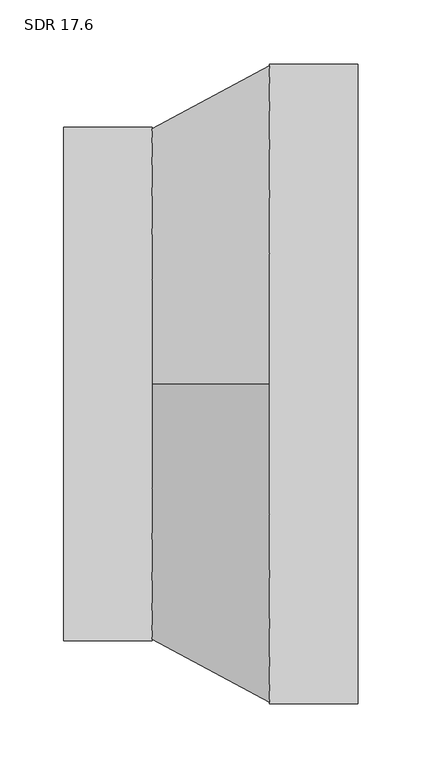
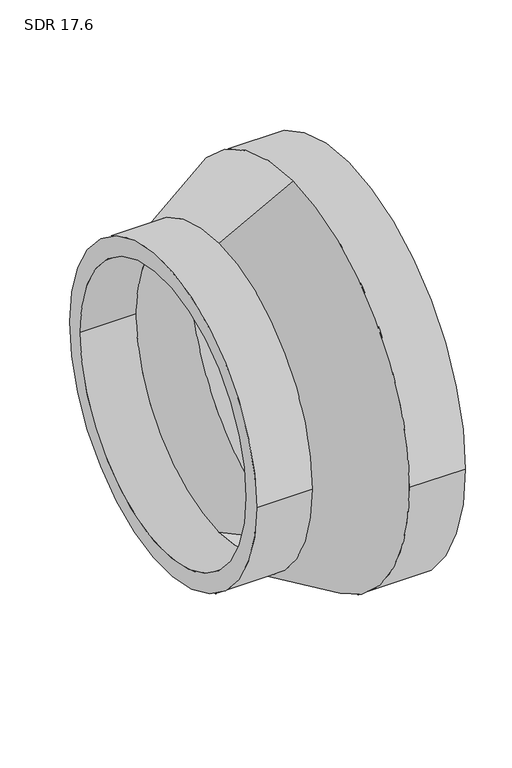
"""IFC4 building model written with IfcOpenShell, lengths in millimetres: pipe fitting geometry, Aquatherm - Reducing Coupling Combined - METRIC : SDR 17.6."""

from ifc_helpers import new_model, si_unit, frame, origin, place, context, project, spatial, polyline, circle_curve, source, transform, mapped, element, save
from ifc_brep_helpers import plane_surface, cylinder_surface, revolved_surface, advanced_brep


def sdr_17_6_247944d3(model_context):
    return source(origin(), model_context, "Body", "AdvancedBrep", [
        advanced_brep(
        [(-115.062, -200.66, 0.0), (-115.062, 200.66, 0.0), (-115.062, -177.8577273, 0.0), (-115.062, 177.8577273, 0.0), (-46.0248, 177.8577273, 0.0), (-46.0248, 0.0, 177.8577273), (-46.0248, -177.8577273, 0.0), (-46.0248, 0.0, -177.8577273), (-46.0248, 200.66, 0.0), (-46.0248, 0.0, -200.66), (-46.0248, -200.66, 0.0), (-46.0248, 0.0, 200.66), (115.062, -250.19, 0.0), (115.062, 250.19, 0.0), (115.062, -221.7593182, 0.0), (115.062, 221.7593182, 0.0), (46.0248, -250.19, 0.0), (46.0248, 0.0, -250.19), (46.0248, 250.19, 0.0), (46.0248, 0.0, 250.19), (46.0248, -221.7593182, 0.0), (46.0248, 0.0, 221.7593182), (46.0248, 221.7593182, 0.0), (46.0248, 0.0, -221.7593182)],
        [
            (0, 1, circle_curve(frame((-115.062, 0.0, 0.0), z_axis=(-1.0, 0.0, 0.0), x_axis=(0.0, 1.0, 0.0)), 200.66)),
            (1, 0, circle_curve(frame((-115.062, 0.0, 0.0), z_axis=(-1.0, 0.0, 0.0), x_axis=(0.0, 1.0, 0.0)), 200.66)),
            (2, 3, circle_curve(frame((-115.062, 0.0, 0.0), z_axis=(1.0, 0.0, 0.0), x_axis=(0.0, 1.0, 0.0)), 177.8577273)),
            (3, 2, circle_curve(frame((-115.062, 0.0, 0.0), z_axis=(1.0, 0.0, 0.0), x_axis=(0.0, 1.0, 0.0)), 177.8577273)),
            (3, 4),
            (4, 5, circle_curve(frame((-46.0248, 0.0, 0.0), z_axis=(1.0, 0.0, 0.0), x_axis=(0.0, 1.0, 0.0)), 177.8577273)),
            (5, 6, circle_curve(frame((-46.0248, 0.0, 0.0), z_axis=(1.0, 0.0, 0.0), x_axis=(0.0, 1.0, 0.0)), 177.8577273)),
            (6, 2),
            (6, 7, circle_curve(frame((-46.0248, 0.0, 0.0), z_axis=(1.0, 0.0, 0.0), x_axis=(0.0, 1.0, 0.0)), 177.8577273)),
            (7, 4, circle_curve(frame((-46.0248, 0.0, 0.0), z_axis=(1.0, 0.0, 0.0), x_axis=(0.0, 1.0, 0.0)), 177.8577273)),
            (1, 8),
            (8, 9, circle_curve(frame((-46.0248, 0.0, 0.0), z_axis=(-1.0, 0.0, 0.0), x_axis=(0.0, 1.0, 0.0)), 200.66)),
            (9, 10, circle_curve(frame((-46.0248, 0.0, 0.0), z_axis=(-1.0, 0.0, 0.0), x_axis=(0.0, 1.0, 0.0)), 200.66)),
            (10, 0),
            (10, 11, circle_curve(frame((-46.0248, 0.0, 0.0), z_axis=(-1.0, 0.0, 0.0), x_axis=(0.0, 1.0, 0.0)), 200.66)),
            (11, 8, circle_curve(frame((-46.0248, 0.0, 0.0), z_axis=(-1.0, 0.0, 0.0), x_axis=(0.0, 1.0, 0.0)), 200.66)),
            (12, 13, circle_curve(frame((115.062, 0.0, 0.0), z_axis=(1.0, 0.0, 0.0), x_axis=(0.0, 1.0, 0.0)), 250.19)),
            (13, 12, circle_curve(frame((115.062, 0.0, 0.0), z_axis=(1.0, 0.0, 0.0), x_axis=(0.0, 1.0, 0.0)), 250.19)),
            (14, 15, circle_curve(frame((115.062, 0.0, 0.0), z_axis=(-1.0, 0.0, 0.0), x_axis=(0.0, 1.0, 0.0)), 221.7593182)),
            (15, 14, circle_curve(frame((115.062, 0.0, 0.0), z_axis=(-1.0, 0.0, 0.0), x_axis=(0.0, 1.0, 0.0)), 221.7593182)),
            (12, 16),
            (16, 17, circle_curve(frame((46.0248, 0.0, 0.0), z_axis=(1.0, 0.0, 0.0), x_axis=(0.0, 1.0, 0.0)), 250.19)),
            (17, 18, circle_curve(frame((46.0248, 0.0, 0.0), z_axis=(1.0, 0.0, 0.0), x_axis=(0.0, 1.0, 0.0)), 250.19)),
            (18, 13),
            (18, 19, circle_curve(frame((46.0248, 0.0, 0.0), z_axis=(1.0, 0.0, 0.0), x_axis=(0.0, 1.0, 0.0)), 250.19)),
            (19, 16, circle_curve(frame((46.0248, 0.0, 0.0), z_axis=(1.0, 0.0, 0.0), x_axis=(0.0, 1.0, 0.0)), 250.19)),
            (14, 20),
            (20, 21, circle_curve(frame((46.0248, 0.0, 0.0), z_axis=(-1.0, 0.0, 0.0), x_axis=(0.0, 1.0, 0.0)), 221.7593182)),
            (21, 22, circle_curve(frame((46.0248, 0.0, 0.0), z_axis=(-1.0, 0.0, 0.0), x_axis=(0.0, 1.0, 0.0)), 221.7593182)),
            (22, 15),
            (22, 23, circle_curve(frame((46.0248, 0.0, 0.0), z_axis=(-1.0, 0.0, 0.0), x_axis=(0.0, 1.0, 0.0)), 221.7593182)),
            (23, 20, circle_curve(frame((46.0248, 0.0, 0.0), z_axis=(-1.0, 0.0, 0.0), x_axis=(0.0, 1.0, 0.0)), 221.7593182)),
            (11, 19),
            (17, 9),
            (21, 5),
            (7, 23),
        ],
        [
            plane_surface(frame((-115.062, 177.8577273, 0.0), z_axis=(-1.0, 0.0, 0.0), x_axis=(0.0, 0.0, 1.0))),
            revolved_surface(polyline([(-115.062, 177.8577273, 0.0), (-46.0248, 177.8577273, 0.0)]), (-115.062, 0.0, 0.0), (-1.0, 0.0, 0.0)),
            cylinder_surface(frame((0.0, 0.0, 0.0), z_axis=(1.0, 0.0, 0.0), x_axis=(0.0, 1.0, 0.0)), 200.66),
            plane_surface(frame((115.062, 250.19, 0.0), z_axis=(1.0, 0.0, 0.0), x_axis=(0.0, 0.0, 1.0))),
            cylinder_surface(frame((46.0248, 0.0, 0.0), z_axis=(1.0, 0.0, 0.0), x_axis=(0.0, 1.0, 0.0)), 250.19),
            revolved_surface(polyline([(46.0248, 221.7593182, 0.0), (115.062, 221.7593182, 0.0)]), (0.0, 0.0, 0.0), (-1.0, 0.0, 0.0)),
            revolved_surface(polyline([(46.0248, 0.0, 250.19), (-46.0248, 0.0, 200.66)]), (-690.3215384, 0.0, 0.0), (-1.0, 0.0, 0.0)),
            revolved_surface(polyline([(-46.0248, 0.0, 177.8577273), (46.0248, 0.0, 221.7593182)]), (-690.3215384, 0.0, 0.0), (-1.0, 0.0, 0.0)),
        ],
        [
            (0, [[1, 2], [3, 4]]),
            (1, [[-4, 5, 6, 7, 8]]),
            (1, [[-3, -8, 9, 10, -5]]),
            (2, [[-2, 11, 12, 13, 14]]),
            (2, [[-1, -14, 15, 16, -11]]),
            (3, [[17, 18], [19, 20]]),
            (4, [[-17, 21, 22, 23, 24]]),
            (4, [[-18, -24, 25, 26, -21]]),
            (5, [[-19, 27, 28, 29, 30]]),
            (5, [[-20, -30, 31, 32, -27]]),
            (6, [[33, -25, -23, 34, -12, -16]]),
            (6, [[-33, -15, -13, -34, -22, -26]]),
            (7, [[35, -6, -10, 36, -31, -29]]),
            (7, [[-35, -28, -32, -36, -9, -7]]),
        ],
    ),
    ])


if __name__ == "__main__":
    model = new_model("IFC4")
    model_context = context("Model", 3, world=origin())
    ifc_project = project(units=[si_unit("LENGTHUNIT", "METRE", prefix="MILLI")], contexts=[model_context])
    site = spatial("IfcSite", under=ifc_project)
    building = spatial("IfcBuilding", under=site)
    placement = place(None, origin())
    sdr_17_6_shape = sdr_17_6_247944d3(model_context)
    element("IfcPipeFitting", 1, ObjectType="Aquatherm - Reducing Coupling Combined - METRIC : SDR 17.6", at=placement, inside=building, context=model_context, shape_type="MappedRepresentation", body=[
        mapped(sdr_17_6_shape, transform((0.0, 0.0, 0.0), x_axis=(1.0, 0.0, 0.0), y_axis=(0.0, 1.0, 0.0), z_axis=(0.0, 0.0, 1.0))),
    ])
    save(model, "model.ifc")
